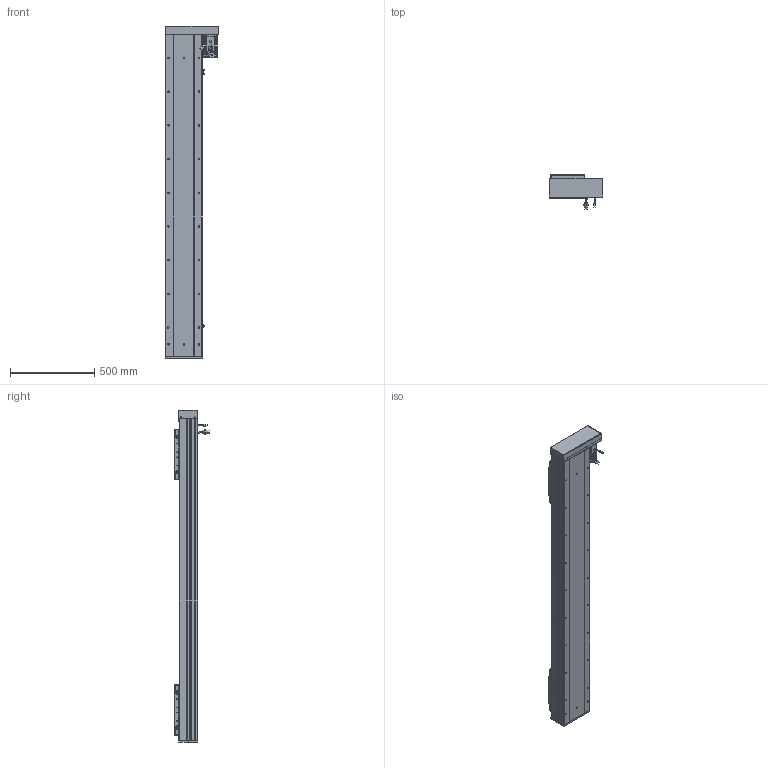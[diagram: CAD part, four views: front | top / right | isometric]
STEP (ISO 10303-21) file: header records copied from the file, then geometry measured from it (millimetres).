
FILE_DESCRIPTION (( 'STEP AP203' ), '1' );
FILE_NAME ('RY220F-L2525-300-RK.SLDASM_1500.step', '2022-07-04T01:35:46', ( '' ), ( '' ), 'SwSTEP 2.0', 'SolidWorks 2016', '' );
FILE_SCHEMA (( 'CONFIG_CONTROL_DESIGN' ));
Length unit declared in the file: millimetre
Products named in the file (15): RY220F綴裔啣; RY220F-詩湍揤踡輸; RY220F-祥凄詩湍-蛌殏-300_1500; RY220F-蛌殏奻裔啣-300_1500; 覜茼ん672; 怢湛750W_ECMA-CX0807ES; RY220酘衵殏萇儂欶; RY220F-L2525-300-RK.SLDASM_1500; RY220F蛌殏菁釱-300_1500; RY220F-672覜茼んえ; RY220F-滅鳥奻裔; 侐源滅袉蝶; 滅袉蝶18-24; RY220左右折电机安装板; RY220F臏賑釱25-32佪裝
Assembly tree (24 placements, depth 2):
  RY220F-L2525-300-RK.SLDASM_1500
    RY220F蛌殏菁釱-300_1500
    RY220F-蛌殏奻裔啣-300_1500  x2
    怢湛750W_ECMA-CX0807ES
    RY220F臏賑釱25-32佪裝  x2
    RY220F-滅鳥奻裔  x2
    滅袉蝶18-24  x3
    RY220F綴裔啣
    RY220F-祥凄詩湍-蛌殏-300_1500
    RY220F-詩湍揤踡輸  x2
    覜茼ん672  x3
    RY220F-672覜茼んえ  x2
    RY220左右折电机安装板
    RY220酘衵殏萇儂欶
    侐源滅袉蝶  x2
Bounding box: 317.5 x 205.27 x 1971 mm (x, y, z)
Volume: 17754185.4 mm3; surface area: 4691156.2 mm2
Topology: 25 solids, 25 shells, 2812 faces, 7644 edges, 4722 vertices
Faces by surface type: cylinder 1274, plane 1044, cone 423, bspline 45, sphere 16, torus 10
Entity records: 69920 total; most frequent: CARTESIAN_POINT 18847, ORIENTED_EDGE 10302, DIRECTION 10068, EDGE_CURVE 5151, AXIS2_PLACEMENT_3D 3594, VERTEX_POINT 3338, VECTOR 2880, LINE 2880
